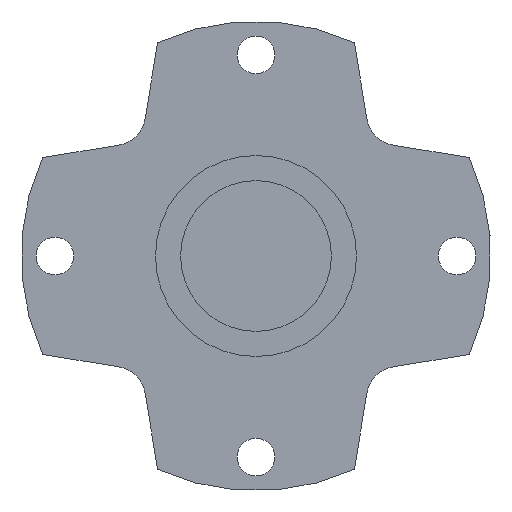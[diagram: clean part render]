
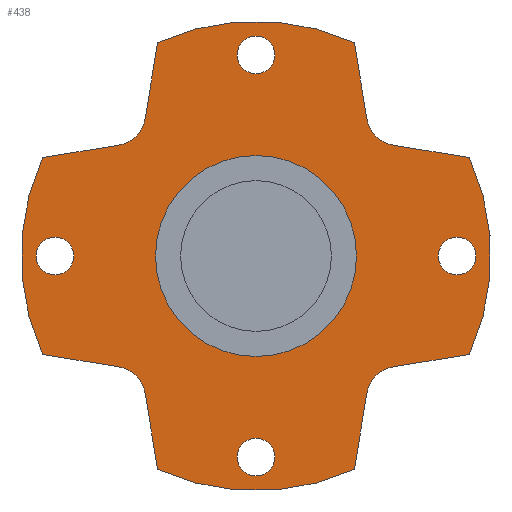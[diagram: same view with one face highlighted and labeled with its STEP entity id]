
A CAD part, left-side view. The second image highlights one B-rep face of the part: STEP entity #438.
In plain terms, the highlighted planar face has unit normal (-1, 0, 0).
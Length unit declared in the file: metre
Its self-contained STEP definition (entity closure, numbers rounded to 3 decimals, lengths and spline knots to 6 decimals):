
#26=LINE('',#688,#58);
#27=LINE('',#692,#59);
#28=LINE('',#696,#60);
#29=LINE('',#700,#61);
#30=LINE('',#704,#62);
#31=LINE('',#708,#63);
#32=LINE('',#712,#64);
#33=LINE('',#716,#65);
#58=VECTOR('',#547,1.);
#59=VECTOR('',#550,1.);
#60=VECTOR('',#553,1.);
#61=VECTOR('',#556,1.);
#62=VECTOR('',#559,1.);
#63=VECTOR('',#562,1.);
#64=VECTOR('',#565,1.);
#65=VECTOR('',#568,1.);
#90=ORIENTED_EDGE('',*,*,#210,.T.);
#91=ORIENTED_EDGE('',*,*,#211,.T.);
#92=ORIENTED_EDGE('',*,*,#212,.T.);
#93=ORIENTED_EDGE('',*,*,#213,.T.);
#94=ORIENTED_EDGE('',*,*,#214,.T.);
#95=ORIENTED_EDGE('',*,*,#215,.F.);
#96=ORIENTED_EDGE('',*,*,#216,.F.);
#97=ORIENTED_EDGE('',*,*,#217,.T.);
#98=ORIENTED_EDGE('',*,*,#218,.T.);
#99=ORIENTED_EDGE('',*,*,#219,.F.);
#100=ORIENTED_EDGE('',*,*,#220,.F.);
#101=ORIENTED_EDGE('',*,*,#221,.T.);
#102=ORIENTED_EDGE('',*,*,#222,.T.);
#103=ORIENTED_EDGE('',*,*,#223,.F.);
#104=ORIENTED_EDGE('',*,*,#224,.F.);
#105=ORIENTED_EDGE('',*,*,#225,.T.);
#106=ORIENTED_EDGE('',*,*,#226,.T.);
#107=ORIENTED_EDGE('',*,*,#227,.F.);
#108=ORIENTED_EDGE('',*,*,#228,.F.);
#109=ORIENTED_EDGE('',*,*,#229,.T.);
#110=ORIENTED_EDGE('',*,*,#230,.T.);
#210=EDGE_CURVE('',#270,#270,#314,.T.);
#211=EDGE_CURVE('',#271,#271,#315,.T.);
#212=EDGE_CURVE('',#272,#272,#316,.T.);
#213=EDGE_CURVE('',#273,#273,#317,.T.);
#214=EDGE_CURVE('',#274,#274,#318,.T.);
#215=EDGE_CURVE('',#275,#276,#319,.T.);
#216=EDGE_CURVE('',#277,#275,#26,.T.);
#217=EDGE_CURVE('',#277,#278,#320,.T.);
#218=EDGE_CURVE('',#278,#279,#27,.T.);
#219=EDGE_CURVE('',#280,#279,#321,.T.);
#220=EDGE_CURVE('',#281,#280,#28,.T.);
#221=EDGE_CURVE('',#281,#282,#322,.T.);
#222=EDGE_CURVE('',#282,#283,#29,.T.);
#223=EDGE_CURVE('',#284,#283,#323,.T.);
#224=EDGE_CURVE('',#285,#284,#30,.T.);
#225=EDGE_CURVE('',#285,#286,#324,.T.);
#226=EDGE_CURVE('',#286,#287,#31,.T.);
#227=EDGE_CURVE('',#288,#287,#325,.T.);
#228=EDGE_CURVE('',#289,#288,#32,.T.);
#229=EDGE_CURVE('',#289,#290,#326,.T.);
#230=EDGE_CURVE('',#290,#276,#33,.T.);
#270=VERTEX_POINT('',#676);
#271=VERTEX_POINT('',#678);
#272=VERTEX_POINT('',#680);
#273=VERTEX_POINT('',#682);
#274=VERTEX_POINT('',#684);
#275=VERTEX_POINT('',#686);
#276=VERTEX_POINT('',#687);
#277=VERTEX_POINT('',#689);
#278=VERTEX_POINT('',#691);
#279=VERTEX_POINT('',#693);
#280=VERTEX_POINT('',#695);
#281=VERTEX_POINT('',#697);
#282=VERTEX_POINT('',#699);
#283=VERTEX_POINT('',#701);
#284=VERTEX_POINT('',#703);
#285=VERTEX_POINT('',#705);
#286=VERTEX_POINT('',#707);
#287=VERTEX_POINT('',#709);
#288=VERTEX_POINT('',#711);
#289=VERTEX_POINT('',#713);
#290=VERTEX_POINT('',#715);
#314=CIRCLE('',#478,0.00075);
#315=CIRCLE('',#479,0.00075);
#316=CIRCLE('',#480,0.00075);
#317=CIRCLE('',#481,0.00075);
#318=CIRCLE('',#482,0.004);
#319=CIRCLE('',#483,0.009347);
#320=CIRCLE('',#484,0.0013);
#321=CIRCLE('',#485,0.009347);
#322=CIRCLE('',#486,0.0013);
#323=CIRCLE('',#487,0.009347);
#324=CIRCLE('',#488,0.0013);
#325=CIRCLE('',#489,0.009347);
#326=CIRCLE('',#490,0.0013);
#342=EDGE_LOOP('',(#90));
#343=EDGE_LOOP('',(#91));
#344=EDGE_LOOP('',(#92));
#345=EDGE_LOOP('',(#93));
#346=EDGE_LOOP('',(#94));
#347=EDGE_LOOP('',(#95,#96,#97,#98,#99,#100,#101,#102,#103,#104,#105,#106,
#107,#108,#109,#110));
#384=FACE_BOUND('',#342,.T.);
#385=FACE_BOUND('',#343,.T.);
#386=FACE_BOUND('',#344,.T.);
#387=FACE_BOUND('',#345,.T.);
#388=FACE_BOUND('',#346,.T.);
#389=FACE_BOUND('',#347,.T.);
#426=PLANE('',#477);
#438=ADVANCED_FACE('',(#384,#385,#386,#387,#388,#389),#426,.F.);
#477=AXIS2_PLACEMENT_3D('',#674,#533,#534);
#478=AXIS2_PLACEMENT_3D('',#675,#535,#536);
#479=AXIS2_PLACEMENT_3D('',#677,#537,#538);
#480=AXIS2_PLACEMENT_3D('',#679,#539,#540);
#481=AXIS2_PLACEMENT_3D('',#681,#541,#542);
#482=AXIS2_PLACEMENT_3D('',#683,#543,#544);
#483=AXIS2_PLACEMENT_3D('',#685,#545,#546);
#484=AXIS2_PLACEMENT_3D('',#690,#548,#549);
#485=AXIS2_PLACEMENT_3D('',#694,#551,#552);
#486=AXIS2_PLACEMENT_3D('',#698,#554,#555);
#487=AXIS2_PLACEMENT_3D('',#702,#557,#558);
#488=AXIS2_PLACEMENT_3D('',#706,#560,#561);
#489=AXIS2_PLACEMENT_3D('',#710,#563,#564);
#490=AXIS2_PLACEMENT_3D('',#714,#566,#567);
#533=DIRECTION('',(1.,0.,0.));
#534=DIRECTION('',(0.,1.,0.));
#535=DIRECTION('',(1.,0.,0.));
#536=DIRECTION('',(0.,0.,-1.));
#537=DIRECTION('',(1.,0.,0.));
#538=DIRECTION('',(0.,0.,-1.));
#539=DIRECTION('',(1.,0.,0.));
#540=DIRECTION('',(0.,0.,-1.));
#541=DIRECTION('',(1.,0.,0.));
#542=DIRECTION('',(0.,0.,-1.));
#543=DIRECTION('',(1.,0.,0.));
#544=DIRECTION('',(0.,0.,-1.));
#545=DIRECTION('',(1.,0.,0.));
#546=DIRECTION('',(0.,0.,-1.));
#547=DIRECTION('',(0.,-0.987,-0.161));
#548=DIRECTION('',(1.,0.,0.));
#549=DIRECTION('',(0.,0.,-1.));
#550=DIRECTION('',(0.,0.161,0.987));
#551=DIRECTION('',(1.,0.,0.));
#552=DIRECTION('',(0.,0.,-1.));
#553=DIRECTION('',(0.,-0.161,0.987));
#554=DIRECTION('',(1.,0.,0.));
#555=DIRECTION('',(0.,0.,-1.));
#556=DIRECTION('',(0.,0.987,-0.161));
#557=DIRECTION('',(1.,0.,0.));
#558=DIRECTION('',(0.,0.,-1.));
#559=DIRECTION('',(0.,0.987,0.161));
#560=DIRECTION('',(1.,0.,0.));
#561=DIRECTION('',(0.,0.,-1.));
#562=DIRECTION('',(0.,-0.161,-0.987));
#563=DIRECTION('',(1.,0.,0.));
#564=DIRECTION('',(0.,0.,-1.));
#565=DIRECTION('',(0.,0.161,-0.987));
#566=DIRECTION('',(1.,0.,0.));
#567=DIRECTION('',(0.,0.,-1.));
#568=DIRECTION('',(0.,-0.987,0.161));
#674=CARTESIAN_POINT('',(0.087,0.,0.));
#675=CARTESIAN_POINT('',(0.087,0.,-0.008));
#676=CARTESIAN_POINT('',(0.087,0.,-0.00875));
#677=CARTESIAN_POINT('',(0.087,-0.008,0.));
#678=CARTESIAN_POINT('',(0.087,-0.008,-0.00075));
#679=CARTESIAN_POINT('',(0.087,0.,0.008));
#680=CARTESIAN_POINT('',(0.087,0.,0.00725));
#681=CARTESIAN_POINT('',(0.087,0.008,0.));
#682=CARTESIAN_POINT('',(0.087,0.008,-0.00075));
#683=CARTESIAN_POINT('',(0.087,0.,0.));
#684=CARTESIAN_POINT('',(0.087,0.,-0.004));
#685=CARTESIAN_POINT('',(0.087,0.,0.));
#686=CARTESIAN_POINT('',(0.087,-0.008486,0.003918));
#687=CARTESIAN_POINT('',(0.087,-0.008486,-0.003918));
#688=CARTESIAN_POINT('',(0.087,-0.011442,0.003437));
#689=CARTESIAN_POINT('',(0.087,-0.005482,0.004407));
#690=CARTESIAN_POINT('',(0.087,-0.00569,0.00569));
#691=CARTESIAN_POINT('',(0.087,-0.004407,0.005482));
#692=CARTESIAN_POINT('',(0.087,-0.003437,0.011442));
#693=CARTESIAN_POINT('',(0.087,-0.003918,0.008486));
#694=CARTESIAN_POINT('',(0.087,0.,0.));
#695=CARTESIAN_POINT('',(0.087,0.003918,0.008486));
#696=CARTESIAN_POINT('',(0.087,0.003437,0.011442));
#697=CARTESIAN_POINT('',(0.087,0.004407,0.005482));
#698=CARTESIAN_POINT('',(0.087,0.00569,0.00569));
#699=CARTESIAN_POINT('',(0.087,0.005482,0.004407));
#700=CARTESIAN_POINT('',(0.087,0.011442,0.003437));
#701=CARTESIAN_POINT('',(0.087,0.008486,0.003918));
#702=CARTESIAN_POINT('',(0.087,0.,0.));
#703=CARTESIAN_POINT('',(0.087,0.008486,-0.003918));
#704=CARTESIAN_POINT('',(0.087,0.011442,-0.003437));
#705=CARTESIAN_POINT('',(0.087,0.005482,-0.004407));
#706=CARTESIAN_POINT('',(0.087,0.00569,-0.00569));
#707=CARTESIAN_POINT('',(0.087,0.004407,-0.005482));
#708=CARTESIAN_POINT('',(0.087,0.003437,-0.011442));
#709=CARTESIAN_POINT('',(0.087,0.003918,-0.008486));
#710=CARTESIAN_POINT('',(0.087,0.,0.));
#711=CARTESIAN_POINT('',(0.087,-0.003918,-0.008486));
#712=CARTESIAN_POINT('',(0.087,-0.003437,-0.011442));
#713=CARTESIAN_POINT('',(0.087,-0.004407,-0.005482));
#714=CARTESIAN_POINT('',(0.087,-0.00569,-0.00569));
#715=CARTESIAN_POINT('',(0.087,-0.005482,-0.004407));
#716=CARTESIAN_POINT('',(0.087,-0.011442,-0.003437));
